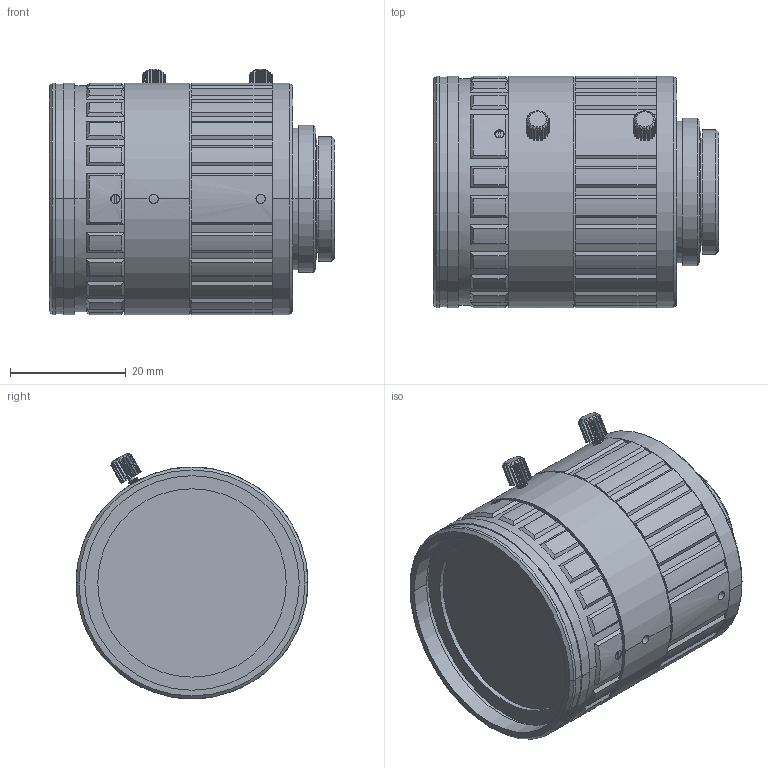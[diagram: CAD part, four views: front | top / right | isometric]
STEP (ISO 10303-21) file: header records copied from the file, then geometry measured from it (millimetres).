
FILE_DESCRIPTION((''),'2;1');
FILE_NAME('OPT-C2514-10M-V1_0','2019-09-12T10:51:26',('dcsongs'),(''),'CREO PARAMETRIC BY PTC INC, 2018400','CREO PARAMETRIC BY PTC INC, 2018400','');
FILE_SCHEMA(('AUTOMOTIVE_DESIGN { 1 0 10303 214 1 1 1 1 }'));
Length unit declared in the file: millimetre
Products named in the file (1): OPT-C2514-10M-V1_0
Bounding box: 49.23 x 40 x 42.4 mm (x, y, z)
Volume: 49515.6 mm3; surface area: 13940.5 mm2
Topology: 1 solids, 4 shells, 715 faces, 2003 edges, 1316 vertices
Faces by surface type: cylinder 315, plane 280, cone 78, bspline 34, extrusion 4, sphere 4
Entity records: 28534 total; most frequent: CARTESIAN_POINT 10382, ORIENTED_EDGE 3986, DIRECTION 3584, EDGE_CURVE 1993, AXIS2_PLACEMENT_3D 1378, VERTEX_POINT 1315, VECTOR 828, LINE 824
